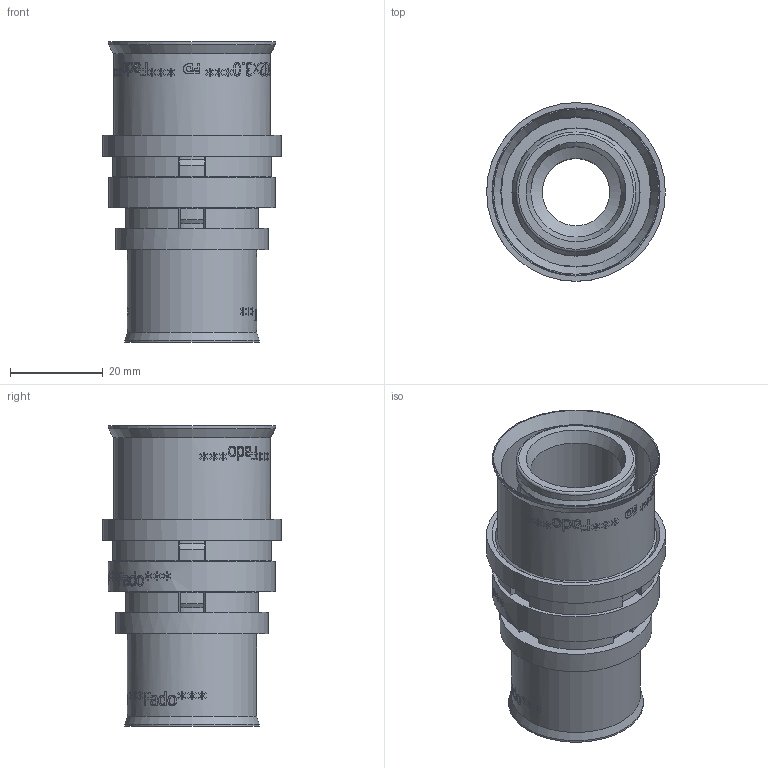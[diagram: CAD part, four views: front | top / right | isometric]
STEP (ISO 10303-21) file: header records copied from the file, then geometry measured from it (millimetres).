
FILE_DESCRIPTION(/* description */ (''),/* implementation_level */ '2;1');
FILE_NAME(/* name */ 'C:\Users\Doom\Desktop\Фадотех\Пресс\HDM08 32x26 Coupler 31.03.2020\HDM08 32x26 Coupler 31.03.2020.stp',/* time_stamp */ '2022-08-11T13:18:06+03:00',/* author */ ('Doom'),/* organization */ (''),/* preprocessor_version */ 'ST-DEVELOPER v18',/* originating_system */ 'Autodesk Inventor 2020',/* authorisation */ '');
FILE_SCHEMA (('AUTOMOTIVE_DESIGN { 1 0 10303 214 3 1 1 }'));
Products named in the file (6): HDM01 Coupler 31.03.2020; 16 Model 18.12.2019; 16 Model 18.12.2019_1; 16 Model 18.12.2019_2; 16 Model 18.12.2019_3; 16 Model 18.12.2019_4
Assembly tree (5 placements, depth 2):
  HDM01 Coupler 31.03.2020
    16 Model 18.12.2019
    16 Model 18.12.2019_1
    16 Model 18.12.2019_2
    16 Model 18.12.2019_3
    16 Model 18.12.2019_4
Bounding box: 38.5 x 38.5 x 64.7 mm (x, y, z)
Volume: 20486.1 mm3; surface area: 25956.7 mm2
Topology: 5 solids, 5 shells, 1295 faces, 3655 edges, 2464 vertices
Faces by surface type: bspline 830, plane 279, cylinder 146, cone 30, torus 10
Full cylindrical faces by diameter (mm): 14.5 x1, 16.6 x2, 17.8 x1, 19.5 x1, 19.8 x8, 20.8 x2, 21.5 x1, 21.6 x1, 22.6 x2, 23.8 x1, 25.8 x8, 26.4 x2, 26.5 x1, 26.6 x1, 27.5 x1, 27.6 x1, 27.8 x1, 28.3 x1, 29 x2, 29.2 x1, 32.4 x2, 32.8 x1, 33.8 x1, 34.8 x1, 35.5 x1, 35.6 x1, 36 x2, 38.5 x1
Entity records: 56851 total; most frequent: CARTESIAN_POINT 28059, ORIENTED_EDGE 7310, EDGE_CURVE 3655, DIRECTION 3553, VERTEX_POINT 2464, B_SPLINE_CURVE_WITH_KNOTS 1660, EDGE_LOOP 1415, LINE 1389
